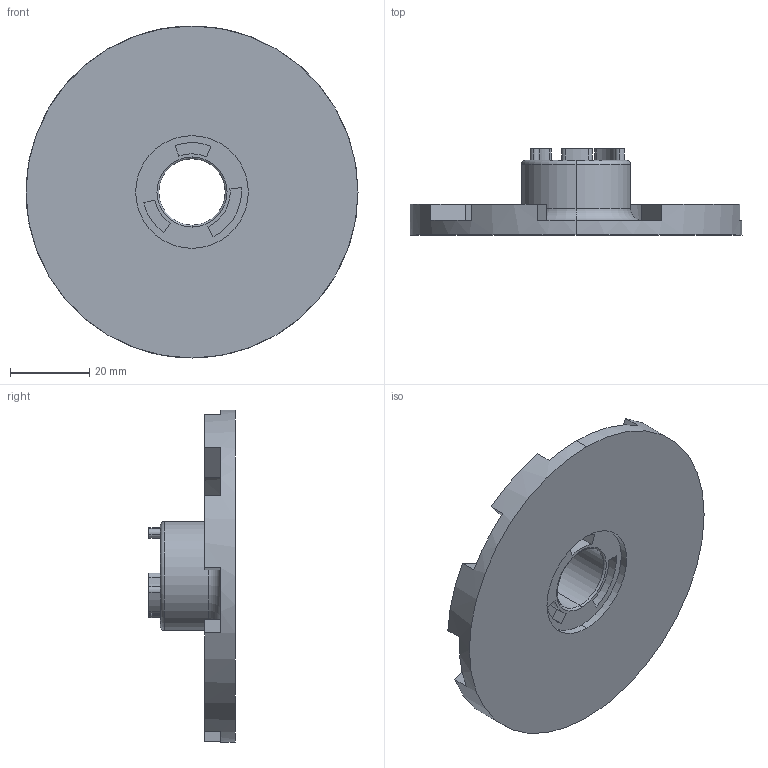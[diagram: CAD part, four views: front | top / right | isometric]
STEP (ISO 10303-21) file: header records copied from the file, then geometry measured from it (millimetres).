
FILE_DESCRIPTION (( 'STEP AP214' ), '1' );
FILE_NAME ('BOWFLEX PART 2.STEP', '2020-04-29T04:56:46', ( '' ), ( '' ), 'SwSTEP 2.0', 'SolidWorks 2019', '' );
FILE_SCHEMA (( 'AUTOMOTIVE_DESIGN' ));
Length unit declared in the file: millimetre
Products named in the file (1): BOWFLEX PART 2
Bounding box: 84 x 21.85 x 84 mm (x, y, z)
Volume: 29801.8 mm3; surface area: 15754.9 mm2
Topology: 1 solids, 1 shells, 101 faces, 262 edges, 172 vertices
Faces by surface type: plane 49, cylinder 38, torus 8, bspline 6
Entity records: 3526 total; most frequent: CARTESIAN_POINT 942, DIRECTION 554, ORIENTED_EDGE 524, EDGE_CURVE 262, AXIS2_PLACEMENT_3D 208, VERTEX_POINT 172, VECTOR 138, LINE 138
